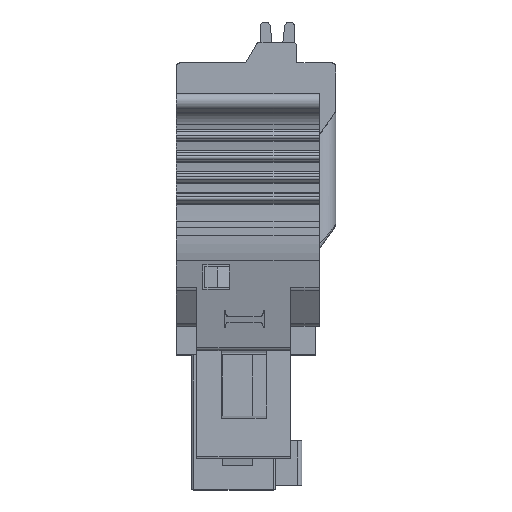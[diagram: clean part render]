
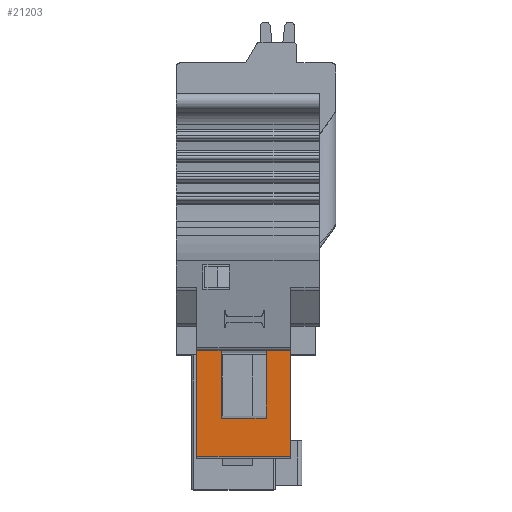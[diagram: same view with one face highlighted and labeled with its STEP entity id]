
A CAD part, top view. The second image highlights one B-rep face of the part: STEP entity #21203.
In plain terms, the highlighted planar face has unit normal (0, 0, 1).
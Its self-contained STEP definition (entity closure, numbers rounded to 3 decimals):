
#7379=DIRECTION('',(0.,-1.,0.));
#7380=VECTOR('',#7379,5.2);
#7381=CARTESIAN_POINT('',(1.,0.2,-0.2));
#7382=LINE('',#7381,#7380);
#7426=DIRECTION('',(1.,0.,0.));
#7427=VECTOR('',#7426,1.2);
#7428=CARTESIAN_POINT('',(1.,0.2,-0.2));
#7429=LINE('',#7428,#7427);
#7430=DIRECTION('',(0.,1.,0.));
#7431=VECTOR('',#7430,3.3);
#7432=CARTESIAN_POINT('',(4.4,-3.1,-0.2));
#7433=LINE('',#7432,#7431);
#7434=DIRECTION('',(1.,0.,0.));
#7435=VECTOR('',#7434,1.2);
#7436=CARTESIAN_POINT('',(4.4,0.2,-0.2));
#7437=LINE('',#7436,#7435);
#7438=DIRECTION('',(0.,-1.,0.));
#7439=VECTOR('',#7438,5.2);
#7440=CARTESIAN_POINT('',(5.6,0.2,-0.2));
#7441=LINE('',#7440,#7439);
#7446=DIRECTION('',(1.,0.,0.));
#7447=VECTOR('',#7446,4.6);
#7448=CARTESIAN_POINT('',(1.,-5.,-0.2));
#7449=LINE('',#7448,#7447);
#7462=DIRECTION('',(0.,1.,0.));
#7463=VECTOR('',#7462,3.3);
#7464=CARTESIAN_POINT('',(2.2,-3.1,-0.2));
#7465=LINE('',#7464,#7463);
#7470=DIRECTION('',(-1.,0.,0.));
#7471=VECTOR('',#7470,2.2);
#7472=CARTESIAN_POINT('',(4.4,-3.1,-0.2));
#7473=LINE('',#7472,#7471);
#10542=CARTESIAN_POINT('',(5.6,-5.,-0.2));
#10543=VERTEX_POINT('',#10542);
#10544=CARTESIAN_POINT('',(5.6,0.2,-0.2));
#10545=VERTEX_POINT('',#10544);
#10554=CARTESIAN_POINT('',(1.,0.2,-0.2));
#10555=VERTEX_POINT('',#10554);
#10556=CARTESIAN_POINT('',(1.,-5.,-0.2));
#10557=VERTEX_POINT('',#10556);
#10560=CARTESIAN_POINT('',(4.4,0.2,-0.2));
#10561=VERTEX_POINT('',#10560);
#10562=CARTESIAN_POINT('',(2.2,0.2,-0.2));
#10563=VERTEX_POINT('',#10562);
#10564=CARTESIAN_POINT('',(2.2,-3.1,-0.2));
#10565=VERTEX_POINT('',#10564);
#10566=CARTESIAN_POINT('',(4.4,-3.1,-0.2));
#10567=VERTEX_POINT('',#10566);
#21184=CARTESIAN_POINT('',(7.,-5.1,-0.2));
#21185=DIRECTION('',(0.,0.,1.));
#21186=DIRECTION('',(0.,1.,0.));
#21187=AXIS2_PLACEMENT_3D('',#21184,#21185,#21186);
#21188=PLANE('',#21187);
#21190=ORIENTED_EDGE('',*,*,#21189,.F.);
#21191=ORIENTED_EDGE('',*,*,#21140,.F.);
#21192=ORIENTED_EDGE('',*,*,#21178,.T.);
#21194=ORIENTED_EDGE('',*,*,#21193,.F.);
#21196=ORIENTED_EDGE('',*,*,#21195,.F.);
#21198=ORIENTED_EDGE('',*,*,#21197,.T.);
#21199=ORIENTED_EDGE('',*,*,#21174,.T.);
#21200=ORIENTED_EDGE('',*,*,#21079,.T.);
#21201=EDGE_LOOP('',(#21190,#21191,#21192,#21194,#21196,#21198,#21199,#21200));
#21202=FACE_OUTER_BOUND('',#21201,.F.);
#21203=ADVANCED_FACE('',(#21202),#21188,.T.);
#21079=EDGE_CURVE('',#10545,#10543,#7441,.T.);
#21140=EDGE_CURVE('',#10555,#10557,#7382,.T.);
#21174=EDGE_CURVE('',#10561,#10545,#7437,.T.);
#21178=EDGE_CURVE('',#10555,#10563,#7429,.T.);
#21189=EDGE_CURVE('',#10557,#10543,#7449,.T.);
#21193=EDGE_CURVE('',#10565,#10563,#7465,.T.);
#21195=EDGE_CURVE('',#10567,#10565,#7473,.T.);
#21197=EDGE_CURVE('',#10567,#10561,#7433,.T.);
